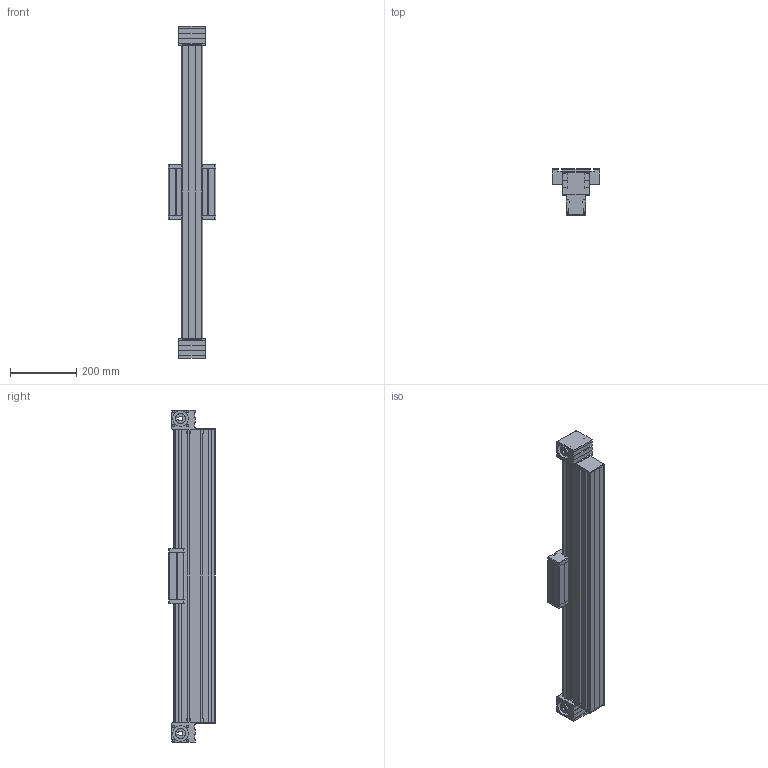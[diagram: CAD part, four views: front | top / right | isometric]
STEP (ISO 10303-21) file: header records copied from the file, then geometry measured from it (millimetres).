
FILE_DESCRIPTION (( 'STEP AP214' ), '1' );
FILE_NAME ('ELZ60 W.STEP', '2022-07-21T07:11:03', ( '' ), ( '' ), 'SwSTEP 2.0', 'SolidWorks 2020', '' );
FILE_SCHEMA (( 'AUTOMOTIVE_DESIGN' ));
Length unit declared in the file: millimetre
Products named in the file (5): carriage^ELZ60 W_carriage version 0; profile^ELZ60 W_2x guide rods; ELZ60 W; timing belt reverse unit^ELZ60 W_coupling claw pos.1; timing belt reverse unit^ELZ60 W_coupling claw pos.2
Assembly tree (4 placements, depth 2):
  ELZ60 W
    profile^ELZ60 W_2x guide rods
    carriage^ELZ60 W_carriage version 0
    timing belt reverse unit^ELZ60 W_coupling claw pos.1
    timing belt reverse unit^ELZ60 W_coupling claw pos.2
Bounding box: 144 x 139 x 1000 mm (x, y, z)
Volume: 7238806.3 mm3; surface area: 784219.6 mm2
Topology: 9 solids, 9 shells, 421 faces, 1123 edges, 742 vertices
Faces by surface type: plane 264, cylinder 145, torus 8, cone 4
Entity records: 13536 total; most frequent: DIRECTION 2297, CARTESIAN_POINT 2293, ORIENTED_EDGE 2246, EDGE_CURVE 1123, VECTOR 805, LINE 805, AXIS2_PLACEMENT_3D 746, VERTEX_POINT 742
